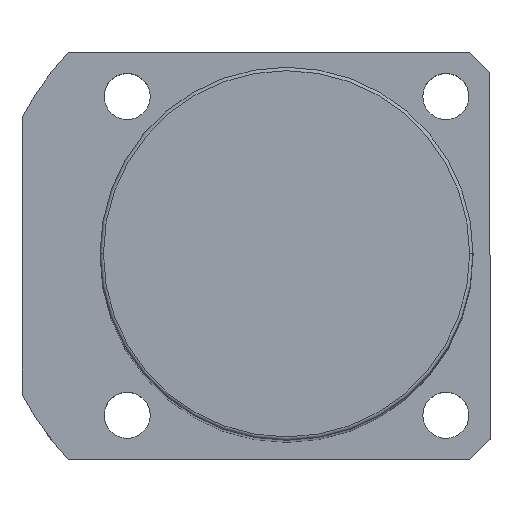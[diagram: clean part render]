
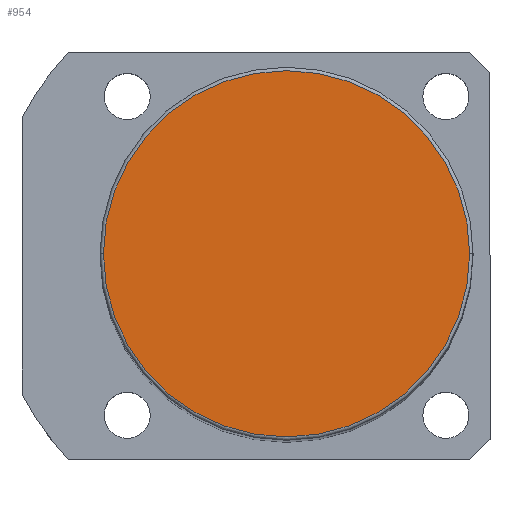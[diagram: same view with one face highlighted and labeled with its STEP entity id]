
A CAD part, top view. The second image highlights one B-rep face of the part: STEP entity #954.
In plain terms, the highlighted planar face has unit normal (0, 0, 1).
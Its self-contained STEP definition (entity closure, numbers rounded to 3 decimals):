
#58 = ORIENTED_EDGE ( 'NONE', *, *, #4034, .T. ) ;
#61 = CIRCLE ( 'NONE', #3677, 27. ) ;
#398 = CARTESIAN_POINT ( 'NONE',  ( 0., 0., 186. ) ) ;
#492 = VERTEX_POINT ( 'NONE', #2698 ) ;
#798 = DIRECTION ( 'NONE',  ( 1., 0., 0. ) ) ;
#954 = ADVANCED_FACE ( 'NONE', ( #1491 ), #3894, .T. ) ;
#1087 = CARTESIAN_POINT ( 'NONE',  ( 0., 0., 186. ) ) ;
#1444 = EDGE_LOOP ( 'NONE', ( #58, #4146 ) ) ;
#1445 = DIRECTION ( 'NONE',  ( 0., 0., 1. ) ) ;
#1491 = FACE_OUTER_BOUND ( 'NONE', #1444, .T. ) ;
#1703 = CIRCLE ( 'NONE', #5171, 27. ) ;
#1727 = VERTEX_POINT ( 'NONE', #1986 ) ;
#1986 = CARTESIAN_POINT ( 'NONE',  ( 27., 0., 186. ) ) ;
#2285 = DIRECTION ( 'NONE',  ( 1., 0., 0. ) ) ;
#2698 = CARTESIAN_POINT ( 'NONE',  ( -27., 0., 186. ) ) ;
#3190 = DIRECTION ( 'NONE',  ( 0., 0., 1. ) ) ;
#3677 = AXIS2_PLACEMENT_3D ( 'NONE', #398, #3190, #798 ) ;
#3792 = AXIS2_PLACEMENT_3D ( 'NONE', #1087, #4661, #2285 ) ;
#3857 = CARTESIAN_POINT ( 'NONE',  ( 0., 0., 186. ) ) ;
#3894 = PLANE ( 'NONE',  #3792 ) ;
#4034 = EDGE_CURVE ( 'NONE', #1727, #492, #1703, .T. ) ;
#4146 = ORIENTED_EDGE ( 'NONE', *, *, #4632, .T. ) ;
#4243 = DIRECTION ( 'NONE',  ( 1., 0., 0. ) ) ;
#4632 = EDGE_CURVE ( 'NONE', #492, #1727, #61, .T. ) ;
#4661 = DIRECTION ( 'NONE',  ( 0., 0., 1. ) ) ;
#5171 = AXIS2_PLACEMENT_3D ( 'NONE', #3857, #1445, #4243 ) ;
